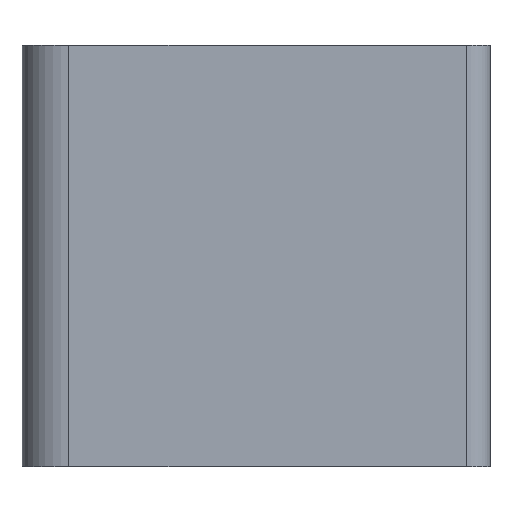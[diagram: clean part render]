
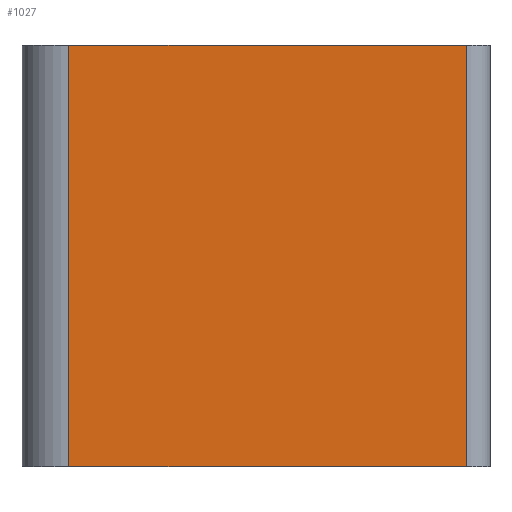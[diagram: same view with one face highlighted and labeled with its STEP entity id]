
A CAD part, left-side view. The second image highlights one B-rep face of the part: STEP entity #1027.
In plain terms, the highlighted planar face has unit normal (-1, 0, 0).
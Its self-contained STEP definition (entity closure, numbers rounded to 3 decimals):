
#32 = PLANE('',#33);
#33 = AXIS2_PLACEMENT_3D('',#34,#35,#36);
#34 = CARTESIAN_POINT('',(-10.,-10.,9.));
#35 = DIRECTION('',(0.,0.,1.));
#36 = DIRECTION('',(1.,0.,-0.));
#114 = VERTEX_POINT('',#115);
#115 = CARTESIAN_POINT('',(-10.,8.,9.));
#130 = CYLINDRICAL_SURFACE('',#131,2.);
#131 = AXIS2_PLACEMENT_3D('',#132,#133,#134);
#132 = CARTESIAN_POINT('',(-8.,8.,-9.));
#133 = DIRECTION('',(0.,0.,1.));
#134 = DIRECTION('',(-0.,1.,0.));
#142 = EDGE_CURVE('',#143,#114,#145,.T.);
#143 = VERTEX_POINT('',#144);
#144 = CARTESIAN_POINT('',(-10.,-9.,9.));
#145 = SURFACE_CURVE('',#146,(#150,#157),.PCURVE_S1.);
#146 = LINE('',#147,#148);
#147 = CARTESIAN_POINT('',(-10.,-10.,9.));
#148 = VECTOR('',#149,1.);
#149 = DIRECTION('',(-0.,1.,0.));
#150 = PCURVE('',#32,#151);
#151 = DEFINITIONAL_REPRESENTATION('',(#152),#156);
#152 = LINE('',#153,#154);
#153 = CARTESIAN_POINT('',(0.,0.));
#154 = VECTOR('',#155,1.);
#155 = DIRECTION('',(0.,1.));
#156 = ( GEOMETRIC_REPRESENTATION_CONTEXT(2) 
PARAMETRIC_REPRESENTATION_CONTEXT() REPRESENTATION_CONTEXT('2D SPACE',''
  ) );
#157 = PCURVE('',#158,#163);
#158 = PLANE('',#159);
#159 = AXIS2_PLACEMENT_3D('',#160,#161,#162);
#160 = CARTESIAN_POINT('',(-10.,-10.,-9.));
#161 = DIRECTION('',(1.,0.,-0.));
#162 = DIRECTION('',(0.,0.,1.));
#163 = DEFINITIONAL_REPRESENTATION('',(#164),#168);
#164 = LINE('',#165,#166);
#165 = CARTESIAN_POINT('',(18.,0.));
#166 = VECTOR('',#167,1.);
#167 = DIRECTION('',(0.,-1.));
#168 = ( GEOMETRIC_REPRESENTATION_CONTEXT(2) 
PARAMETRIC_REPRESENTATION_CONTEXT() REPRESENTATION_CONTEXT('2D SPACE',''
  ) );
#191 = CYLINDRICAL_SURFACE('',#192,1.);
#192 = AXIS2_PLACEMENT_3D('',#193,#194,#195);
#193 = CARTESIAN_POINT('',(-9.,-9.,-9.));
#194 = DIRECTION('',(0.,0.,1.));
#195 = DIRECTION('',(0.,-1.,0.));
#506 = PLANE('',#507);
#507 = AXIS2_PLACEMENT_3D('',#508,#509,#510);
#508 = CARTESIAN_POINT('',(-10.,-10.,-9.));
#509 = DIRECTION('',(0.,0.,1.));
#510 = DIRECTION('',(1.,0.,-0.));
#928 = VERTEX_POINT('',#929);
#929 = CARTESIAN_POINT('',(-10.,8.,-9.));
#951 = EDGE_CURVE('',#928,#114,#952,.T.);
#952 = SURFACE_CURVE('',#953,(#957,#964),.PCURVE_S1.);
#953 = LINE('',#954,#955);
#954 = CARTESIAN_POINT('',(-10.,8.,-9.));
#955 = VECTOR('',#956,1.);
#956 = DIRECTION('',(0.,0.,1.));
#957 = PCURVE('',#130,#958);
#958 = DEFINITIONAL_REPRESENTATION('',(#959),#963);
#959 = LINE('',#960,#961);
#960 = CARTESIAN_POINT('',(1.571,0.));
#961 = VECTOR('',#962,1.);
#962 = DIRECTION('',(0.,1.));
#963 = ( GEOMETRIC_REPRESENTATION_CONTEXT(2) 
PARAMETRIC_REPRESENTATION_CONTEXT() REPRESENTATION_CONTEXT('2D SPACE',''
  ) );
#964 = PCURVE('',#158,#965);
#965 = DEFINITIONAL_REPRESENTATION('',(#966),#970);
#966 = LINE('',#967,#968);
#967 = CARTESIAN_POINT('',(0.,-18.));
#968 = VECTOR('',#969,1.);
#969 = DIRECTION('',(1.,0.));
#970 = ( GEOMETRIC_REPRESENTATION_CONTEXT(2) 
PARAMETRIC_REPRESENTATION_CONTEXT() REPRESENTATION_CONTEXT('2D SPACE',''
  ) );
#1027 = ADVANCED_FACE('',(#1028),#158,.F.);
#1028 = FACE_BOUND('',#1029,.F.);
#1029 = EDGE_LOOP('',(#1030,#1031,#1054,#1075));
#1030 = ORIENTED_EDGE('',*,*,#142,.F.);
#1031 = ORIENTED_EDGE('',*,*,#1032,.F.);
#1032 = EDGE_CURVE('',#1033,#143,#1035,.T.);
#1033 = VERTEX_POINT('',#1034);
#1034 = CARTESIAN_POINT('',(-10.,-9.,-9.));
#1035 = SURFACE_CURVE('',#1036,(#1040,#1047),.PCURVE_S1.);
#1036 = LINE('',#1037,#1038);
#1037 = CARTESIAN_POINT('',(-10.,-9.,-9.));
#1038 = VECTOR('',#1039,1.);
#1039 = DIRECTION('',(0.,0.,1.));
#1040 = PCURVE('',#158,#1041);
#1041 = DEFINITIONAL_REPRESENTATION('',(#1042),#1046);
#1042 = LINE('',#1043,#1044);
#1043 = CARTESIAN_POINT('',(0.,-1.));
#1044 = VECTOR('',#1045,1.);
#1045 = DIRECTION('',(1.,0.));
#1046 = ( GEOMETRIC_REPRESENTATION_CONTEXT(2) 
PARAMETRIC_REPRESENTATION_CONTEXT() REPRESENTATION_CONTEXT('2D SPACE',''
  ) );
#1047 = PCURVE('',#191,#1048);
#1048 = DEFINITIONAL_REPRESENTATION('',(#1049),#1053);
#1049 = LINE('',#1050,#1051);
#1050 = CARTESIAN_POINT('',(-1.571,0.));
#1051 = VECTOR('',#1052,1.);
#1052 = DIRECTION('',(-0.,1.));
#1053 = ( GEOMETRIC_REPRESENTATION_CONTEXT(2) 
PARAMETRIC_REPRESENTATION_CONTEXT() REPRESENTATION_CONTEXT('2D SPACE',''
  ) );
#1054 = ORIENTED_EDGE('',*,*,#1055,.T.);
#1055 = EDGE_CURVE('',#1033,#928,#1056,.T.);
#1056 = SURFACE_CURVE('',#1057,(#1061,#1068),.PCURVE_S1.);
#1057 = LINE('',#1058,#1059);
#1058 = CARTESIAN_POINT('',(-10.,-10.,-9.));
#1059 = VECTOR('',#1060,1.);
#1060 = DIRECTION('',(-0.,1.,0.));
#1061 = PCURVE('',#158,#1062);
#1062 = DEFINITIONAL_REPRESENTATION('',(#1063),#1067);
#1063 = LINE('',#1064,#1065);
#1064 = CARTESIAN_POINT('',(0.,0.));
#1065 = VECTOR('',#1066,1.);
#1066 = DIRECTION('',(0.,-1.));
#1067 = ( GEOMETRIC_REPRESENTATION_CONTEXT(2) 
PARAMETRIC_REPRESENTATION_CONTEXT() REPRESENTATION_CONTEXT('2D SPACE',''
  ) );
#1068 = PCURVE('',#506,#1069);
#1069 = DEFINITIONAL_REPRESENTATION('',(#1070),#1074);
#1070 = LINE('',#1071,#1072);
#1071 = CARTESIAN_POINT('',(0.,0.));
#1072 = VECTOR('',#1073,1.);
#1073 = DIRECTION('',(0.,1.));
#1074 = ( GEOMETRIC_REPRESENTATION_CONTEXT(2) 
PARAMETRIC_REPRESENTATION_CONTEXT() REPRESENTATION_CONTEXT('2D SPACE',''
  ) );
#1075 = ORIENTED_EDGE('',*,*,#951,.T.);
